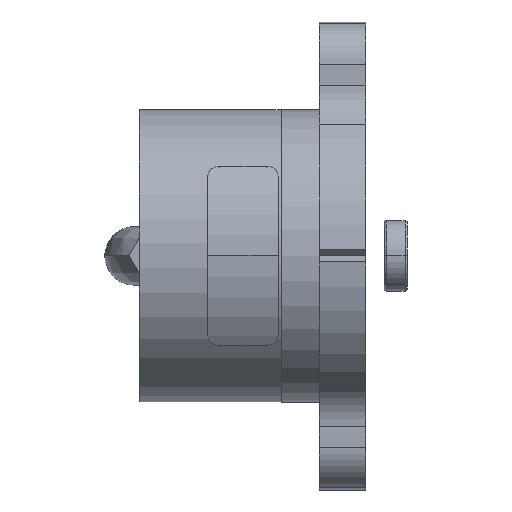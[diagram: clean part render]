
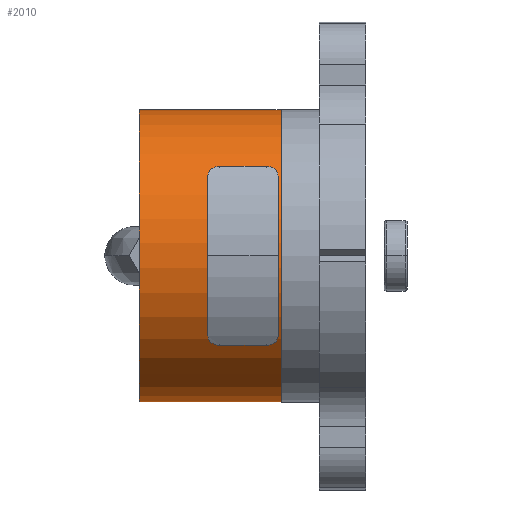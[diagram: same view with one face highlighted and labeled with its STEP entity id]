
A CAD part, left-side view. The second image highlights one B-rep face of the part: STEP entity #2010.
In plain terms, the highlighted cylindrical face has radius 12.5 mm (diameter 25 mm), a partial arc.
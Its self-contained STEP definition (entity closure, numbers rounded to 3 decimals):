
#189 = DIRECTION ( 'NONE',  ( 1., 0., 0. ) ) ;
#347 = DIRECTION ( 'NONE',  ( 0., -1., 0. ) ) ;
#350 = VERTEX_POINT ( 'NONE', #3424 ) ;
#519 = CARTESIAN_POINT ( 'NONE',  ( 9.914, 7.25, -7.614 ) ) ;
#527 = AXIS2_PLACEMENT_3D ( 'NONE', #1339, #347, #1628 ) ;
#647 = ORIENTED_EDGE ( 'NONE', *, *, #1065, .T. ) ;
#755 = EDGE_CURVE ( 'NONE', #350, #3959, #3420, .T. ) ;
#837 = CARTESIAN_POINT ( 'NONE',  ( 9.914, 19.35, 7.614 ) ) ;
#1004 = CARTESIAN_POINT ( 'NONE',  ( 0., 19.35, 0. ) ) ;
#1065 = EDGE_CURVE ( 'NONE', #2271, #3769, #1707, .T. ) ;
#1132 = VECTOR ( 'NONE', #1778, 1000. ) ;
#1189 = CIRCLE ( 'NONE', #4053, 12.5 ) ;
#1204 = CARTESIAN_POINT ( 'NONE',  ( 0., -20.318, 0. ) ) ;
#1250 = ORIENTED_EDGE ( 'NONE', *, *, #4273, .T. ) ;
#1339 = CARTESIAN_POINT ( 'NONE',  ( 0., 7.25, 0. ) ) ;
#1607 = ORIENTED_EDGE ( 'NONE', *, *, #4034, .F. ) ;
#1628 = DIRECTION ( 'NONE',  ( 1., 0., 0. ) ) ;
#1707 = LINE ( 'NONE', #2018, #1132 ) ;
#1758 = AXIS2_PLACEMENT_3D ( 'NONE', #1204, #2541, #189 ) ;
#1778 = DIRECTION ( 'NONE',  ( 0., -1., 0. ) ) ;
#1982 = DIRECTION ( 'NONE',  ( 0., -1., 0. ) ) ;
#2010 = ADVANCED_FACE ( 'NONE', ( #2200 ), #3523, .T. ) ;
#2018 = CARTESIAN_POINT ( 'NONE',  ( 9.914, -20.318, -7.614 ) ) ;
#2115 = ORIENTED_EDGE ( 'NONE', *, *, #755, .T. ) ;
#2200 = FACE_OUTER_BOUND ( 'NONE', #3676, .T. ) ;
#2271 = VERTEX_POINT ( 'NONE', #2776 ) ;
#2350 = DIRECTION ( 'NONE',  ( 1., 0., 0. ) ) ;
#2424 = CIRCLE ( 'NONE', #527, 12.5 ) ;
#2465 = CARTESIAN_POINT ( 'NONE',  ( 9.914, -20.318, 7.614 ) ) ;
#2541 = DIRECTION ( 'NONE',  ( 0., -1., 0. ) ) ;
#2765 = DIRECTION ( 'NONE',  ( 0., 1., 0. ) ) ;
#2776 = CARTESIAN_POINT ( 'NONE',  ( 9.914, 19.35, -7.614 ) ) ;
#3420 = LINE ( 'NONE', #2465, #3464 ) ;
#3424 = CARTESIAN_POINT ( 'NONE',  ( 9.914, 7.25, 7.614 ) ) ;
#3464 = VECTOR ( 'NONE', #2765, 1000. ) ;
#3523 = CYLINDRICAL_SURFACE ( 'NONE', #1758, 12.5 ) ;
#3676 = EDGE_LOOP ( 'NONE', ( #1250, #647, #1607, #2115 ) ) ;
#3769 = VERTEX_POINT ( 'NONE', #519 ) ;
#3959 = VERTEX_POINT ( 'NONE', #837 ) ;
#4034 = EDGE_CURVE ( 'NONE', #350, #3769, #2424, .T. ) ;
#4053 = AXIS2_PLACEMENT_3D ( 'NONE', #1004, #1982, #2350 ) ;
#4273 = EDGE_CURVE ( 'NONE', #3959, #2271, #1189, .T. ) ;
